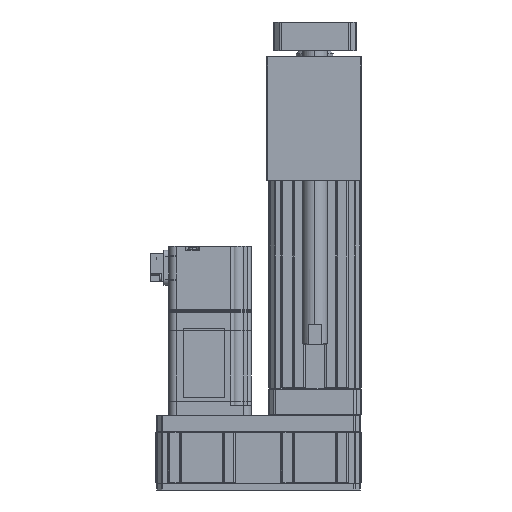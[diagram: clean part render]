
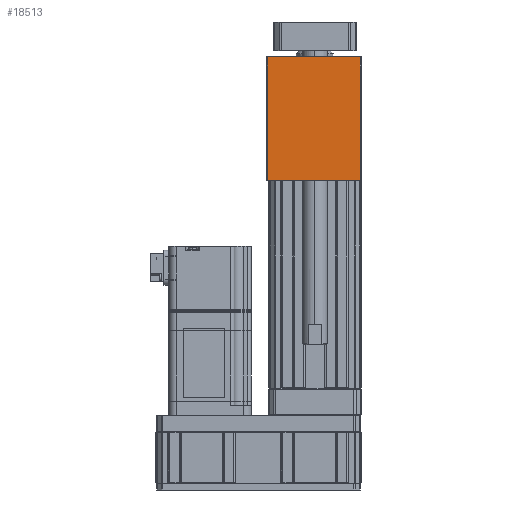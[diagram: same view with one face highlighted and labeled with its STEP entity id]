
A CAD part, front view. The second image highlights one B-rep face of the part: STEP entity #18513.
In plain terms, the highlighted planar face has unit normal (0, -1, 0).
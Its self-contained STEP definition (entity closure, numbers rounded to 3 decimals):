
#425 = DIRECTION ( 'NONE',  ( 1., 0., 0. ) ) ;
#1456 = AXIS2_PLACEMENT_3D ( 'NONE', #35298, #2993, #23550 ) ;
#1597 = VECTOR ( 'NONE', #425, 1000. ) ;
#2993 = DIRECTION ( 'NONE',  ( 0., -1., 0. ) ) ;
#3507 = EDGE_CURVE ( 'NONE', #19652, #5523, #25062, .T. ) ;
#3540 = VECTOR ( 'NONE', #22646, 1000. ) ;
#3631 = DIRECTION ( 'NONE',  ( 0., 0., 1. ) ) ;
#4066 = ORIENTED_EDGE ( 'NONE', *, *, #13443, .T. ) ;
#5523 = VERTEX_POINT ( 'NONE', #9130 ) ;
#5805 = PLANE ( 'NONE',  #1456 ) ;
#7765 = LINE ( 'NONE', #24186, #22498 ) ;
#9130 = CARTESIAN_POINT ( 'NONE',  ( 22., -57.5, 101. ) ) ;
#10928 = DIRECTION ( 'NONE',  ( 0., 0., -1. ) ) ;
#12507 = CARTESIAN_POINT ( 'NONE',  ( -23., -57.5, 161. ) ) ;
#13329 = VECTOR ( 'NONE', #10928, 1000. ) ;
#13443 = EDGE_CURVE ( 'NONE', #27731, #15942, #27016, .T. ) ;
#14027 = ORIENTED_EDGE ( 'NONE', *, *, #37663, .T. ) ;
#14940 = CARTESIAN_POINT ( 'NONE',  ( 22., -57.5, 161. ) ) ;
#15166 = CARTESIAN_POINT ( 'NONE',  ( 22.5, -57.5, 101. ) ) ;
#15942 = VERTEX_POINT ( 'NONE', #12507 ) ;
#17727 = ORIENTED_EDGE ( 'NONE', *, *, #18675, .T. ) ;
#18513 = ADVANCED_FACE ( 'NONE', ( #21147 ), #5805, .T. ) ;
#18675 = EDGE_CURVE ( 'NONE', #5523, #27731, #7765, .T. ) ;
#19652 = VERTEX_POINT ( 'NONE', #35451 ) ;
#19665 = CARTESIAN_POINT ( 'NONE',  ( 22.5, -57.5, 161. ) ) ;
#20015 = EDGE_LOOP ( 'NONE', ( #28151, #17727, #4066, #14027 ) ) ;
#21147 = FACE_OUTER_BOUND ( 'NONE', #20015, .T. ) ;
#21243 = LINE ( 'NONE', #28479, #13329 ) ;
#22498 = VECTOR ( 'NONE', #3631, 1000. ) ;
#22646 = DIRECTION ( 'NONE',  ( -1., 0., 0. ) ) ;
#23550 = DIRECTION ( 'NONE',  ( 0., 0., -1. ) ) ;
#24186 = CARTESIAN_POINT ( 'NONE',  ( 22., -57.5, 161. ) ) ;
#25062 = LINE ( 'NONE', #15166, #1597 ) ;
#27016 = LINE ( 'NONE', #19665, #3540 ) ;
#27731 = VERTEX_POINT ( 'NONE', #14940 ) ;
#28151 = ORIENTED_EDGE ( 'NONE', *, *, #3507, .T. ) ;
#28479 = CARTESIAN_POINT ( 'NONE',  ( -23., -57.5, 101. ) ) ;
#35298 = CARTESIAN_POINT ( 'NONE',  ( 0., -57.5, 0. ) ) ;
#35451 = CARTESIAN_POINT ( 'NONE',  ( -23., -57.5, 101. ) ) ;
#37663 = EDGE_CURVE ( 'NONE', #15942, #19652, #21243, .T. ) ;
